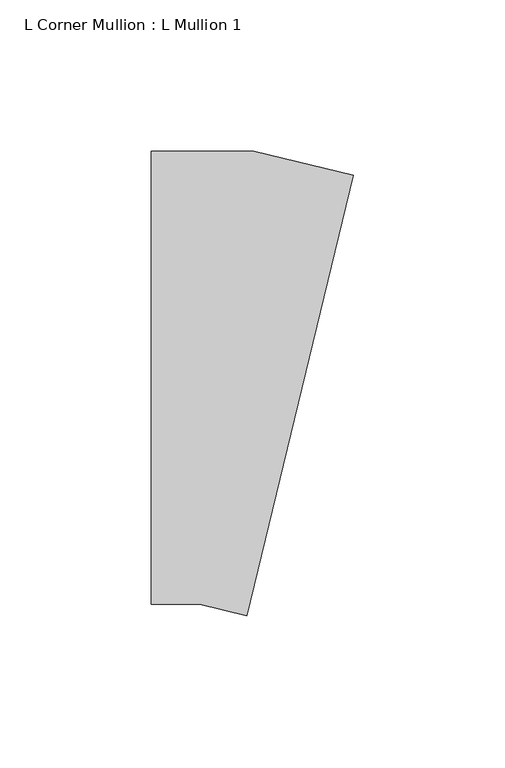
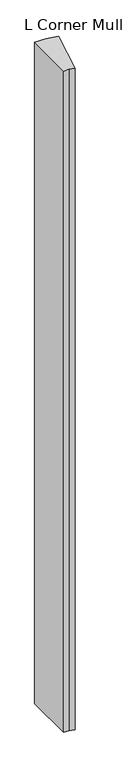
"""IFC4 building model written with IfcOpenShell, lengths in millimetres: member geometry, L Corner Mullion : L Mullion 1."""

from ifc_helpers import new_model, si_unit, frame, origin, place, context, project, spatial, polyline, outline, extrude, source, transform, mapped, element, save


def l_corner_mullion_l_mullion_1_75622cbb(model_context):
    return source(origin(), model_context, "Body", "SweptSolid", [
        extrude(outline(polyline([(6.620501, -78.779242), (-8.9639044, -75.0), (-25.0, -75.0), (-25.0, 75.0), (8.9639044, 75.0), (41.9711444, 66.9956942), (6.620501, -78.779242)])), frame((0.0, 0.0, -2084.4148083), z_axis=(0.0, 0.0, 1.0), x_axis=(1.0, 0.0, 0.0)), (0.0, 0.0, 1.0), 2084.4148083),
    ])


if __name__ == "__main__":
    model = new_model("IFC4")
    model_context = context("Model", 3, world=origin())
    ifc_project = project(units=[si_unit("LENGTHUNIT", "METRE", prefix="MILLI")], contexts=[model_context])
    site = spatial("IfcSite", under=ifc_project)
    building = spatial("IfcBuilding", under=site)
    placement = place(None, origin())
    l_corner_mullion_l_mullion_1_shape = l_corner_mullion_l_mullion_1_75622cbb(model_context)
    element("IfcMember", 1, ObjectType="L Corner Mullion : L Mullion 1", at=placement, inside=building, context=model_context, shape_type="MappedRepresentation", body=[
        mapped(l_corner_mullion_l_mullion_1_shape, transform((0.0, 0.0, 0.0), x_axis=(1.0, 0.0, 0.0), y_axis=(0.0, 1.0, 0.0), z_axis=(0.0, 0.0, 1.0))),
    ])
    save(model, "model.ifc")
